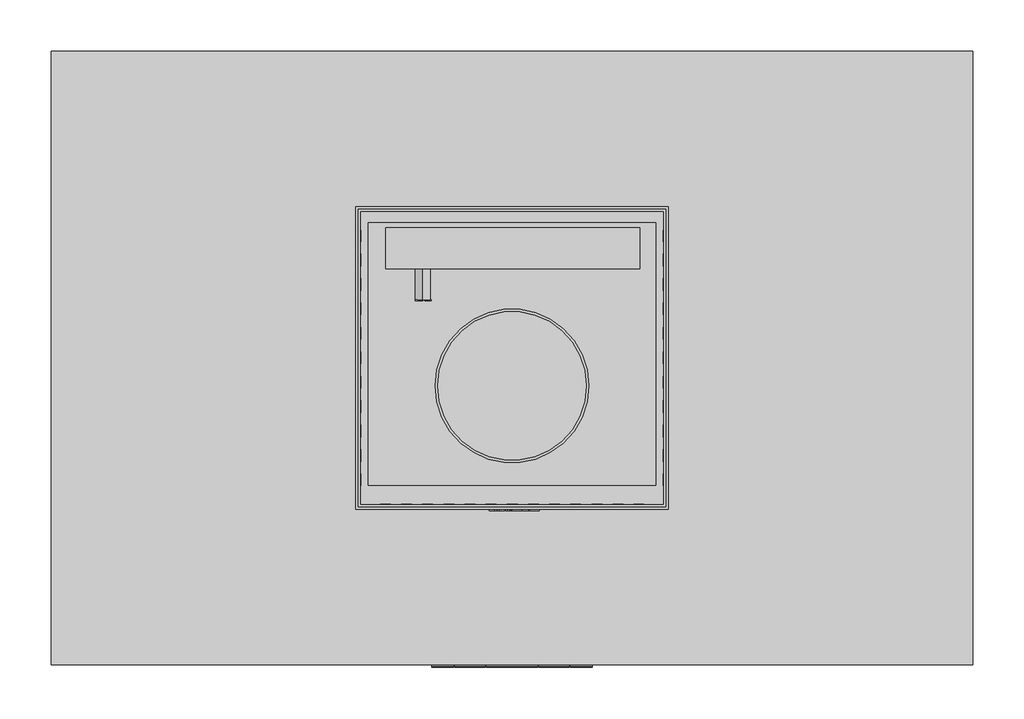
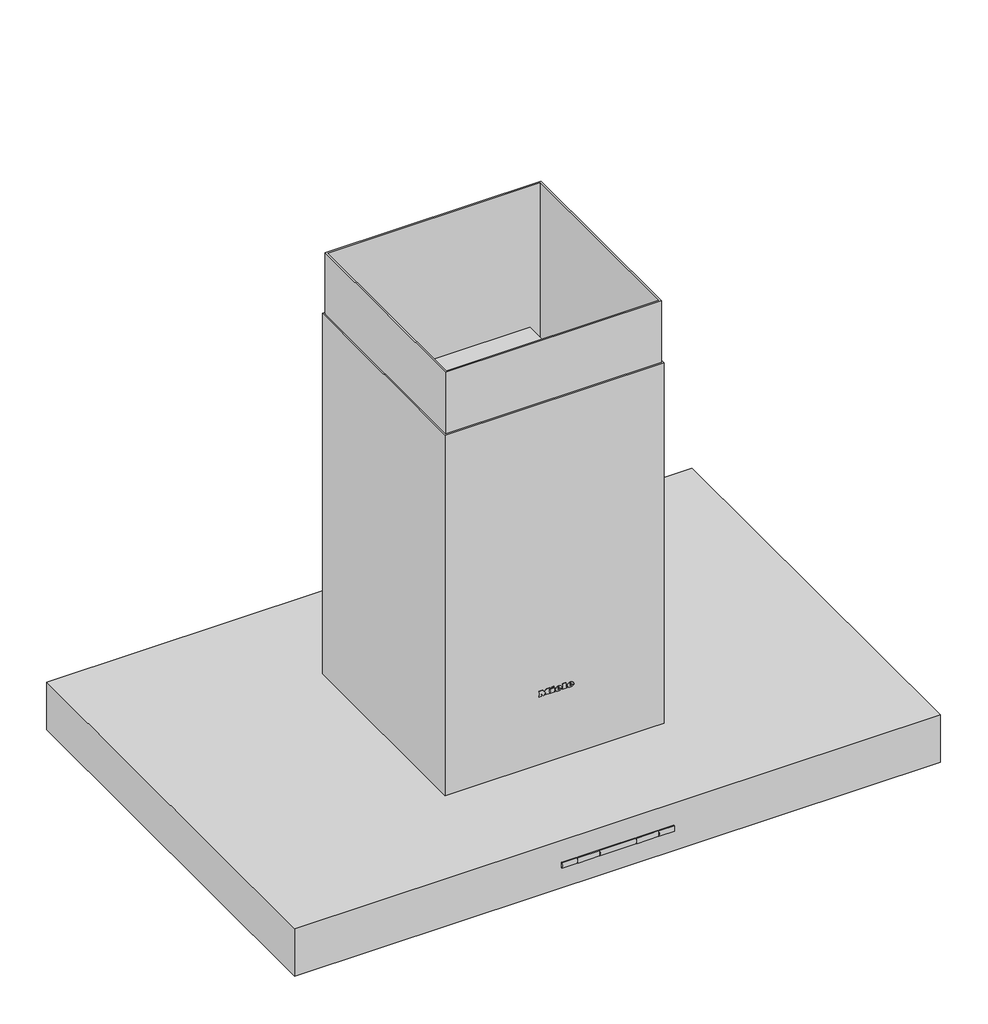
# Not in any storey: 1 proxy.
"""IFC4 building model written with IfcOpenShell, lengths in millimetres."""

from ifc_helpers import new_model, si_unit, origin, place, context, project, spatial, transform, mapped, element, save
from components import specialty_equipment_68ee86d1

model = new_model("IFC4")

# Units and contexts
model_context = context("Model", 3, world=origin())
ifc_project = project(units=[si_unit("LENGTHUNIT", "METRE", prefix="MILLI")], contexts=[model_context])

# Site, building
site = spatial("IfcSite", under=ifc_project)
building = spatial("IfcBuilding", under=site)

# Proxy
placement = place(None, origin())
specialty_equipment_shape = specialty_equipment_68ee86d1(model_context)
element("IfcBuildingElementProxy", 1, Name="11275060_BR_PUR98D_EDST : 28410857_BR_11275060_PUR98D_EDST", ObjectType="11275060_BR_PUR98D_EDST : 28410857_BR_11275060_PUR98D_EDST", at=placement, inside=building, context=model_context, shape_type="MappedRepresentation", body=[
    mapped(specialty_equipment_shape, transform((0.0, 0.0, 0.0), x_axis=(1.0, 0.0, 0.0), y_axis=(0.0, 1.0, 0.0), z_axis=(0.0, 0.0, 1.0))),
])

save(model, "model.ifc")
